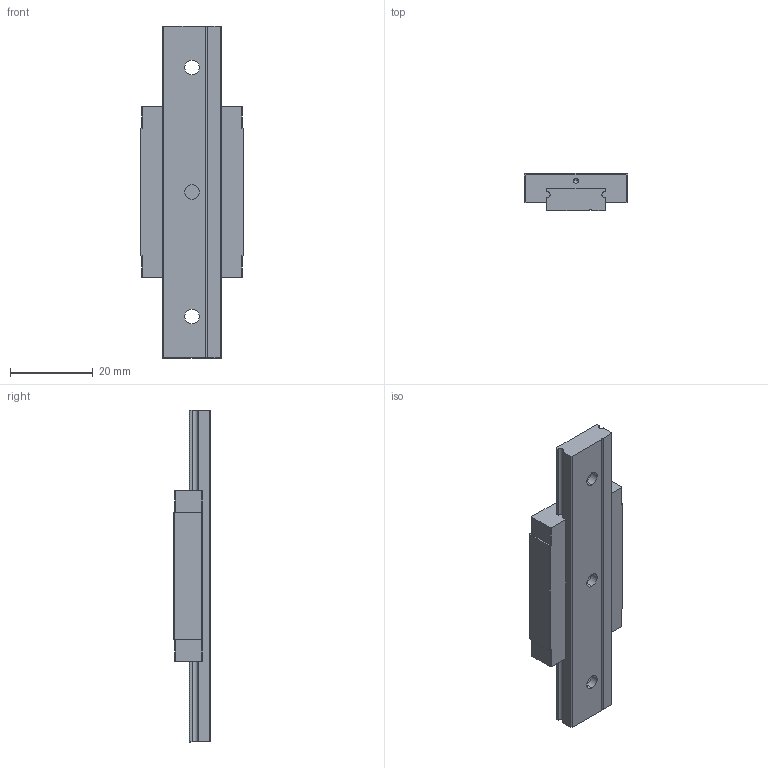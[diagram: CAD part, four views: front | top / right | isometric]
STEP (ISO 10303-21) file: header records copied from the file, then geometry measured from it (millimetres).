
FILE_DESCRIPTION (( 'STEP AP214' ), '1' );
FILE_NAME ('MGW-7-H (3D).STEP', '2021-05-27T07:59:19', ( '' ), ( '' ), 'SwSTEP 2.0', 'SolidWorks 2016', '' );
FILE_SCHEMA (( 'AUTOMOTIVE_DESIGN' ));
Length unit declared in the file: millimetre
Products named in the file (3): MGW7H - RAY; MGW7H - ARABA; MGW-7-H (3D)
Assembly tree (2 placements, depth 2):
  MGW-7-H (3D)
    MGW7H - RAY
    MGW7H - ARABA
Bounding box: 25 x 9 x 80 mm (x, y, z)
Volume: 10516.5 mm3; surface area: 6899 mm2
Topology: 2 solids, 2 shells, 266 faces, 721 edges, 472 vertices
Faces by surface type: plane 197, cylinder 35, bspline 22, cone 12
Entity records: 11146 total; most frequent: CARTESIAN_POINT 2578, ORIENTED_EDGE 1418, DIRECTION 1237, EDGE_CURVE 709, LINE 591, VECTOR 591, VERTEX_POINT 472, AXIS2_PLACEMENT_3D 323
